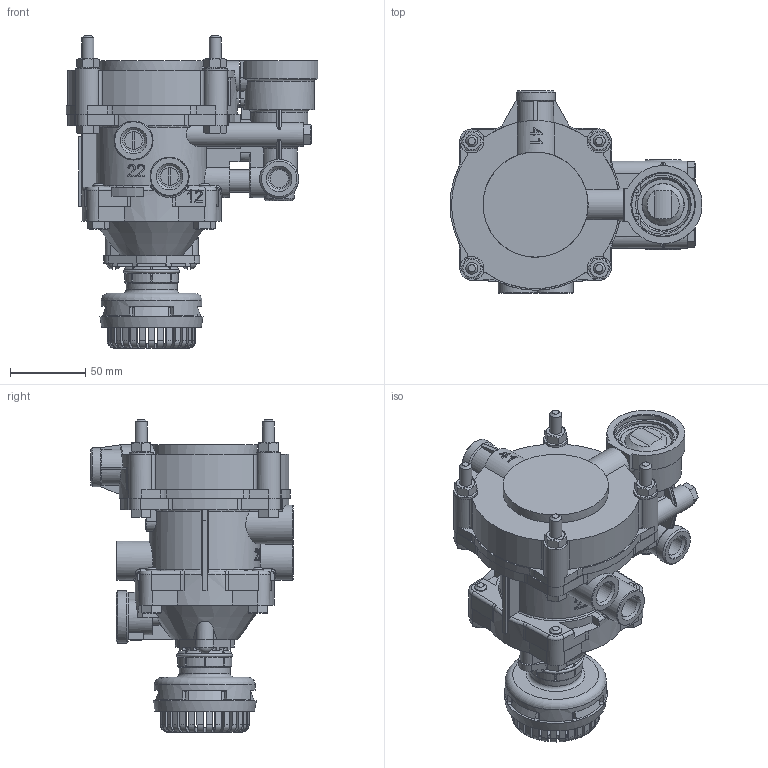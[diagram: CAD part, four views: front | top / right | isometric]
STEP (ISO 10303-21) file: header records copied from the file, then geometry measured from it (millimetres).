
FILE_DESCRIPTION(/* description */ (''),/* implementation_level */ '2;1');
FILE_NAME(/* name */ '6024.35.22.010-10-Клапан управления тормозами прицепа с двухпроводным прицепом.stp',/* time_stamp */ '2023-10-24T11:02:45+03:00',/* author */ (''),/* organization */ (''),/* preprocessor_version */ 'ST-DEVELOPER v16.7',/* originating_system */ 'SIEMENS PLM Software NX 1899',/* authorisation */ '');
FILE_SCHEMA (('AUTOMOTIVE_DESIGN { 1 0 10303 214 3 1 1 1 }'));
Products named in the file (1): kuzm60B8FC360thd
Bounding box: 167.9 x 135 x 208.61 mm (x, y, z)
Volume: 539185.8 mm3; surface area: 260027.5 mm2
Topology: 3 solids, 29 shells, 2239 faces, 6160 edges, 4040 vertices
Faces by surface type: plane 1116, cylinder 604, cone 186, torus 168, extrusion 122, sphere 32, bspline 11
Full cylindrical faces by diameter (mm): 1.5 x6, 1.7 x30, 1.8 x20, 2.3 x12, 2.5 x2, 3.2 x1, 4 x2, 5 x3, 5.5 x5, 6 x2, 6.7 x2, 6.75 x2, 7 x3, 8 x19, 8.5 x1, 9 x5, 9.3 x4, 9.5 x4, 11 x1, 11.3 x2, 11.8 x2, 12 x2, 12.1 x1, 13.5 x3, 13.7 x4, 14.5 x9, 14.8 x3, 15 x2, 15.3 x1, 16 x6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
Entity records: 81945 total; most frequent: CARTESIAN_POINT 25167, ORIENTED_EDGE 11322, DIRECTION 10628, EDGE_CURVE 5661, AXIS2_PLACEMENT_3D 4057, VERTEX_POINT 3892, EDGE_LOOP 2933, VECTOR 2514
